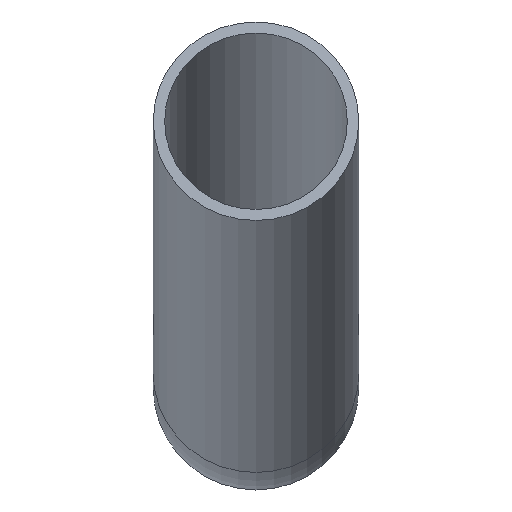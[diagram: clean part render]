
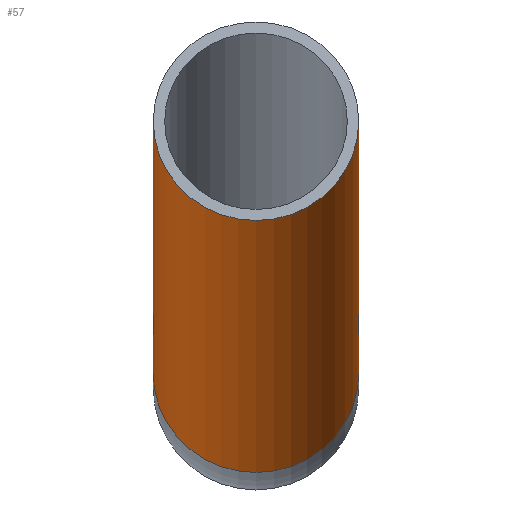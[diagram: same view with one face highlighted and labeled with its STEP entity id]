
A CAD part, front view. The second image highlights one B-rep face of the part: STEP entity #57.
In plain terms, the highlighted cylindrical face has radius 9 mm (diameter 18 mm), a full revolution.
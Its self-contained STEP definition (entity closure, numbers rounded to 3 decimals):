
#57=ADVANCED_FACE('',(#97,#99),#101,.T.);
#97=FACE_OUTER_BOUND('',#98,.T.);
#98=EDGE_LOOP('',(#141));
#99=FACE_OUTER_BOUND('',#100,.T.);
#100=EDGE_LOOP('',(#142));
#101=CYLINDRICAL_SURFACE('',#102,9.);
#102=AXIS2_PLACEMENT_3D('',#103,#104,#105);
#103=CARTESIAN_POINT('',(0.,-4.578,1.227));
#104=DIRECTION('',(0.,-0.966,0.259));
#105=DIRECTION('',(-1.,0.,0.));
#141=ORIENTED_EDGE('',*,*,#153,.T.);
#142=ORIENTED_EDGE('',*,*,#155,.F.);
#153=EDGE_CURVE('',#165,#165,#166,.T.);
#155=EDGE_CURVE('',#169,#169,#170,.T.);
#165=VERTEX_POINT('',#193);
#166=CIRCLE('',#194,9.);
#169=VERTEX_POINT('',#203);
#170=CIRCLE('',#204,9.);
#193=CARTESIAN_POINT('',(-9.,-4.578,1.227));
#194=AXIS2_PLACEMENT_3D('',#195,#196,#197);
#195=CARTESIAN_POINT('',(0.,-4.578,1.227));
#196=DIRECTION('',(0.,-0.966,0.259));
#197=DIRECTION('',(-1.,0.,0.));
#203=CARTESIAN_POINT('',(-9.,-86.933,23.294));
#204=AXIS2_PLACEMENT_3D('',#205,#206,#207);
#205=CARTESIAN_POINT('',(0.,-86.933,23.294));
#206=DIRECTION('',(0.,-0.966,0.259));
#207=DIRECTION('',(-1.,0.,0.));
